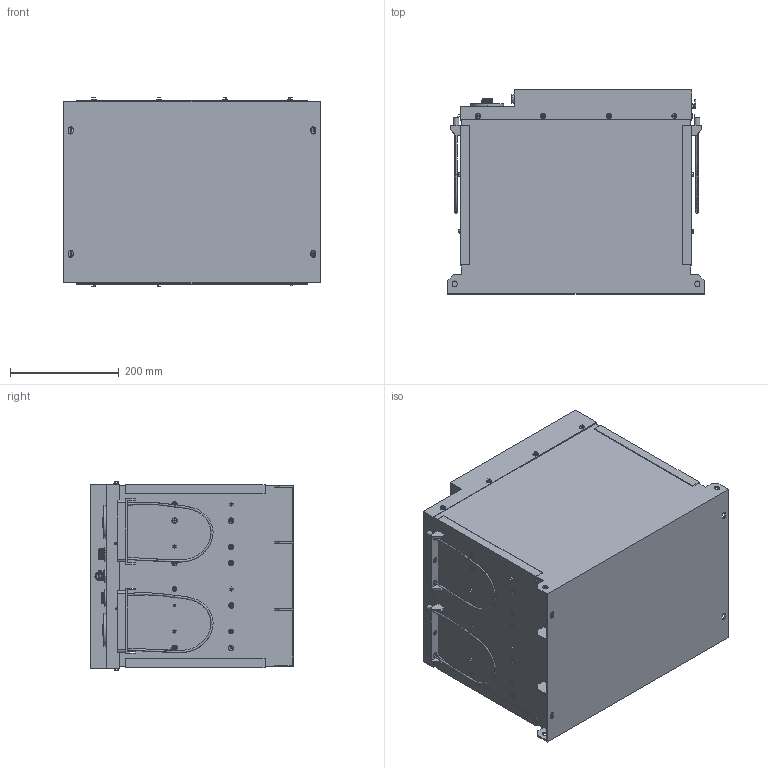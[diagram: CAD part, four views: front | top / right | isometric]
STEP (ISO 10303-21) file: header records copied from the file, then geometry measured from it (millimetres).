
FILE_DESCRIPTION (( 'STEP AP203' ), '1' );
FILE_NAME ('0000-900-0018.STEP', '2018-06-29T21:05:07', ( '' ), ( '' ), 'SwSTEP 2.0', 'SolidWorks 2018', '' );
FILE_SCHEMA (( 'CONFIG_CONTROL_DESIGN' ));
Length unit declared in the file: millimetre
Products named in the file (1): 0000-900-0018
Bounding box: 471.5 x 375 x 346.2 mm (x, y, z)
Surface area: 979003 mm2 (no closed solid volume)
Topology: 0 solids, 121 shells, 353 faces, 2611 edges, 2332 vertices
Faces by surface type: plane 210, cylinder 96, bspline 29, cone 18
Entity records: 34343 total; most frequent: CARTESIAN_POINT 16265, DIRECTION 3242, ORIENTED_EDGE 3101, EDGE_CURVE 2609, VERTEX_POINT 2332, LINE 1244, VECTOR 1244, AXIS2_PLACEMENT_3D 999
